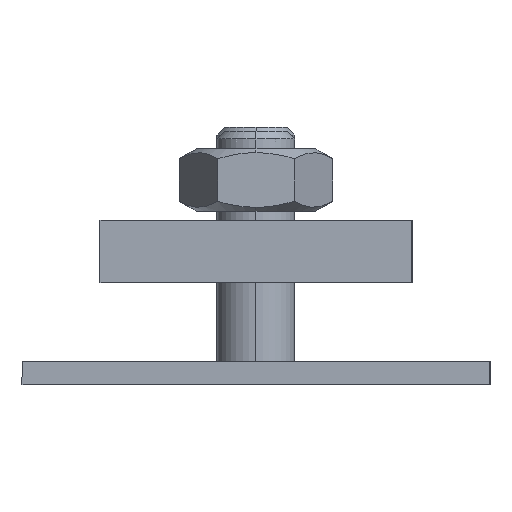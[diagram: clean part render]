
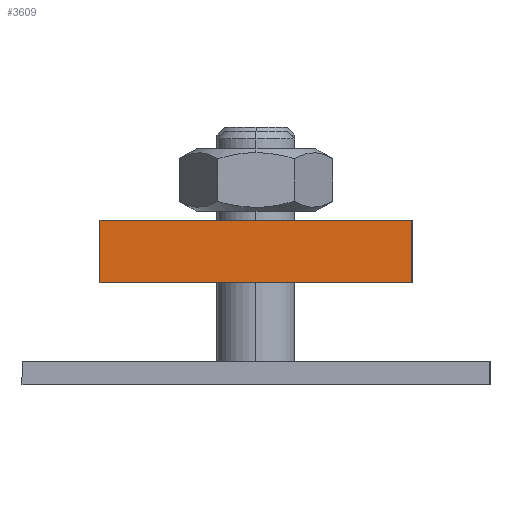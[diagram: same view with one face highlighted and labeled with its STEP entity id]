
A CAD part, left-side view. The second image highlights one B-rep face of the part: STEP entity #3609.
In plain terms, the highlighted planar face has unit normal (-1, 0, 0).
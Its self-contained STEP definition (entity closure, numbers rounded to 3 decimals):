
#107 = EDGE_CURVE ( 'NONE', #227, #2367, #3586, .T. ) ;
#210 = AXIS2_PLACEMENT_3D ( 'NONE', #3253, #3206, #1159 ) ;
#227 = VERTEX_POINT ( 'NONE', #1667 ) ;
#265 = DIRECTION ( 'NONE',  ( 0., -1., 0. ) ) ;
#266 = VERTEX_POINT ( 'NONE', #3191 ) ;
#514 = ORIENTED_EDGE ( 'NONE', *, *, #107, .F. ) ;
#552 = EDGE_LOOP ( 'NONE', ( #1264, #2786, #514, #927 ) ) ;
#613 = DIRECTION ( 'NONE',  ( 0., 0., -1. ) ) ;
#801 = CARTESIAN_POINT ( 'NONE',  ( 5., 0., 0. ) ) ;
#927 = ORIENTED_EDGE ( 'NONE', *, *, #2875, .F. ) ;
#1006 = LINE ( 'NONE', #1520, #2828 ) ;
#1028 = DIRECTION ( 'NONE',  ( 0., -1., 0. ) ) ;
#1031 = EDGE_CURVE ( 'NONE', #2367, #2942, #1006, .T. ) ;
#1126 = CARTESIAN_POINT ( 'NONE',  ( 5., 0., 0. ) ) ;
#1159 = DIRECTION ( 'NONE',  ( 0., 0., 1. ) ) ;
#1264 = ORIENTED_EDGE ( 'NONE', *, *, #2344, .T. ) ;
#1520 = CARTESIAN_POINT ( 'NONE',  ( 5., 0., 0. ) ) ;
#1667 = CARTESIAN_POINT ( 'NONE',  ( 5., 40., 8. ) ) ;
#1941 = VECTOR ( 'NONE', #265, 1000. ) ;
#1982 = VECTOR ( 'NONE', #3796, 1000. ) ;
#2047 = PLANE ( 'NONE',  #210 ) ;
#2121 = FACE_OUTER_BOUND ( 'NONE', #552, .T. ) ;
#2162 = LINE ( 'NONE', #3514, #1982 ) ;
#2318 = VECTOR ( 'NONE', #1028, 1000. ) ;
#2344 = EDGE_CURVE ( 'NONE', #266, #2942, #3015, .T. ) ;
#2367 = VERTEX_POINT ( 'NONE', #2906 ) ;
#2786 = ORIENTED_EDGE ( 'NONE', *, *, #1031, .F. ) ;
#2828 = VECTOR ( 'NONE', #613, 1000. ) ;
#2875 = EDGE_CURVE ( 'NONE', #266, #227, #2162, .T. ) ;
#2906 = CARTESIAN_POINT ( 'NONE',  ( 5., 0., 8. ) ) ;
#2942 = VERTEX_POINT ( 'NONE', #801 ) ;
#3015 = LINE ( 'NONE', #1126, #1941 ) ;
#3090 = CARTESIAN_POINT ( 'NONE',  ( 5., 20., 8. ) ) ;
#3191 = CARTESIAN_POINT ( 'NONE',  ( 5., 40., 0. ) ) ;
#3206 = DIRECTION ( 'NONE',  ( -1., 0., 0. ) ) ;
#3253 = CARTESIAN_POINT ( 'NONE',  ( 5., 0., 0. ) ) ;
#3514 = CARTESIAN_POINT ( 'NONE',  ( 5., 40., 0. ) ) ;
#3586 = LINE ( 'NONE', #3090, #2318 ) ;
#3609 = ADVANCED_FACE ( 'NONE', ( #2121 ), #2047, .T. ) ;
#3796 = DIRECTION ( 'NONE',  ( 0., 0., 1. ) ) ;
